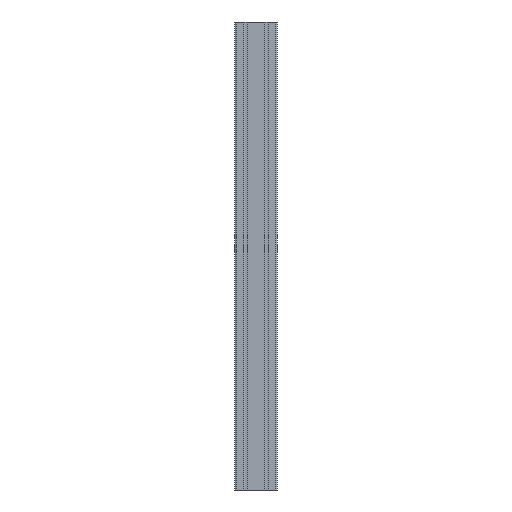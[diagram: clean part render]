
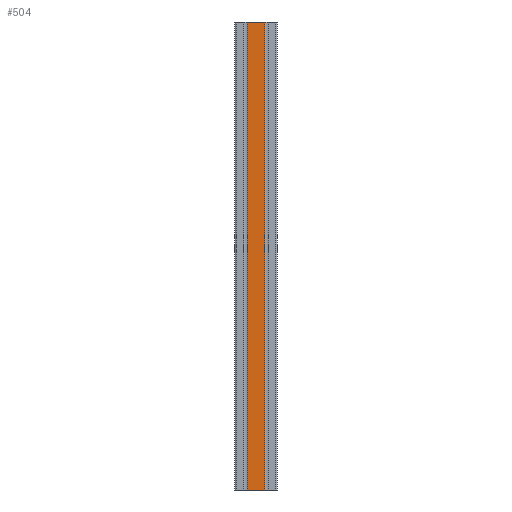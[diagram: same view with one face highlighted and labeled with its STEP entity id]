
A CAD part, left-side view. The second image highlights one B-rep face of the part: STEP entity #504.
In plain terms, the highlighted planar face has unit normal (-1, 0, 0).
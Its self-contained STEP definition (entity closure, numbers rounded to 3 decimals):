
#45 = ORIENTED_EDGE ( 'NONE', *, *, #3739, .T. ) ;
#256 = CARTESIAN_POINT ( 'NONE',  ( -45., -18.3, 500. ) ) ;
#295 = CARTESIAN_POINT ( 'NONE',  ( -45., -18.3, -500. ) ) ;
#504 = ADVANCED_FACE ( 'NONE', ( #6028 ), #2685, .F. ) ;
#859 = EDGE_CURVE ( 'NONE', #4055, #4843, #2711, .T. ) ;
#956 = ORIENTED_EDGE ( 'NONE', *, *, #859, .F. ) ;
#1265 = VERTEX_POINT ( 'NONE', #5564 ) ;
#1275 = EDGE_CURVE ( 'NONE', #1265, #4843, #1779, .T. ) ;
#1581 = EDGE_CURVE ( 'NONE', #4743, #4055, #3511, .T. ) ;
#1779 = LINE ( 'NONE', #6155, #3794 ) ;
#1936 = ORIENTED_EDGE ( 'NONE', *, *, #1581, .F. ) ;
#2295 = DIRECTION ( 'NONE',  ( 0., 0., -1. ) ) ;
#2603 = VECTOR ( 'NONE', #5401, 1000. ) ;
#2685 = PLANE ( 'NONE',  #6069 ) ;
#2688 = ORIENTED_EDGE ( 'NONE', *, *, #1275, .T. ) ;
#2711 = LINE ( 'NONE', #256, #3051 ) ;
#3051 = VECTOR ( 'NONE', #3180, 1000. ) ;
#3180 = DIRECTION ( 'NONE',  ( 0., 0., -1. ) ) ;
#3455 = EDGE_LOOP ( 'NONE', ( #2688, #956, #1936, #45 ) ) ;
#3476 = CARTESIAN_POINT ( 'NONE',  ( -45., 18.3, 500. ) ) ;
#3511 = LINE ( 'NONE', #3476, #2603 ) ;
#3661 = DIRECTION ( 'NONE',  ( 1., 0., 0. ) ) ;
#3739 = EDGE_CURVE ( 'NONE', #4743, #1265, #5644, .T. ) ;
#3794 = VECTOR ( 'NONE', #4649, 1000. ) ;
#4055 = VERTEX_POINT ( 'NONE', #4539 ) ;
#4487 = CARTESIAN_POINT ( 'NONE',  ( -45., 18.3, 500. ) ) ;
#4522 = VECTOR ( 'NONE', #2295, 1000. ) ;
#4539 = CARTESIAN_POINT ( 'NONE',  ( -45., -18.3, 500. ) ) ;
#4612 = CARTESIAN_POINT ( 'NONE',  ( -45., 18.3, 500. ) ) ;
#4649 = DIRECTION ( 'NONE',  ( 0., -1., 0. ) ) ;
#4728 = CARTESIAN_POINT ( 'NONE',  ( -45., 18.3, 500. ) ) ;
#4743 = VERTEX_POINT ( 'NONE', #4487 ) ;
#4843 = VERTEX_POINT ( 'NONE', #295 ) ;
#5401 = DIRECTION ( 'NONE',  ( 0., -1., 0. ) ) ;
#5564 = CARTESIAN_POINT ( 'NONE',  ( -45., 18.3, -500. ) ) ;
#5582 = DIRECTION ( 'NONE',  ( 0., 0., -1. ) ) ;
#5644 = LINE ( 'NONE', #4728, #4522 ) ;
#6028 = FACE_OUTER_BOUND ( 'NONE', #3455, .T. ) ;
#6069 = AXIS2_PLACEMENT_3D ( 'NONE', #4612, #3661, #5582 ) ;
#6155 = CARTESIAN_POINT ( 'NONE',  ( -45., 18.3, -500. ) ) ;
